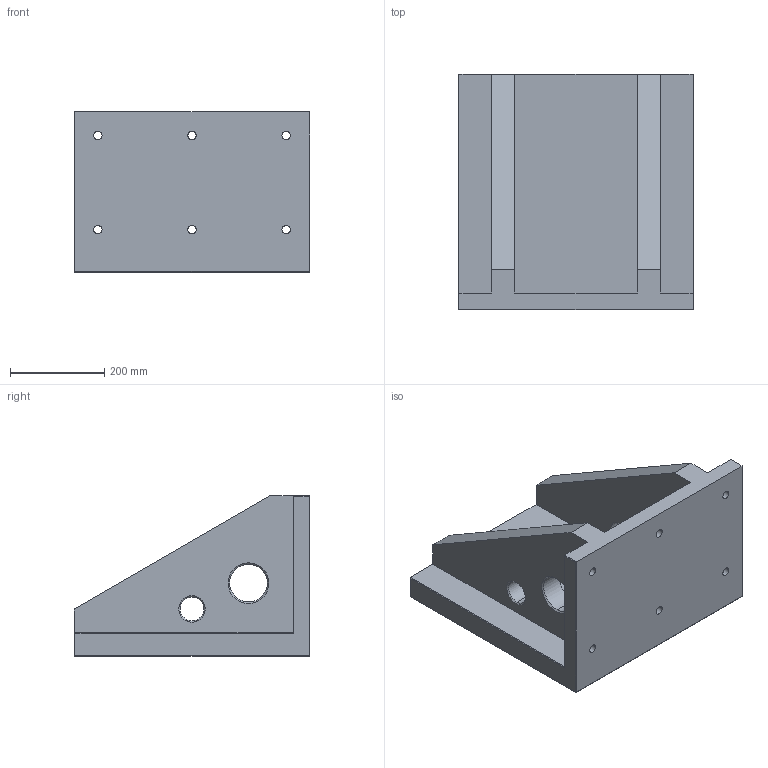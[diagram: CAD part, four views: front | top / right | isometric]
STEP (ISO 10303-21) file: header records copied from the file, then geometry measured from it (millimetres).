
FILE_DESCRIPTION((''),'2;1');
FILE_NAME('FG_WH_ANGPL_ANG12NP002','2026-05-22T12:24:10',('Admin'),(''),'CREO PARAMETRIC BY PTC INC, 2025010','CREO PARAMETRIC BY PTC INC, 2025010','');
FILE_SCHEMA(('CONFIG_CONTROL_DESIGN'));
Length unit declared in the file: millimetre
Products named in the file (1): FG_WH_ANGPL_ANG12NP002
Bounding box: 500 x 500 x 340 mm (x, y, z)
Volume: 25011862.4 mm3; surface area: 1426783.7 mm2
Topology: 1 solids, 82 shells, 887 faces, 2137 edges, 1339 vertices
Faces by surface type: cylinder 518, plane 199, cone 170
Entity records: 25155 total; most frequent: DIRECTION 4957, CARTESIAN_POINT 4202, ORIENTED_EDGE 3626, AXIS2_PLACEMENT_3D 2094, EDGE_CURVE 1975, VERTEX_POINT 1339, CIRCLE 1206, EDGE_LOOP 1156
